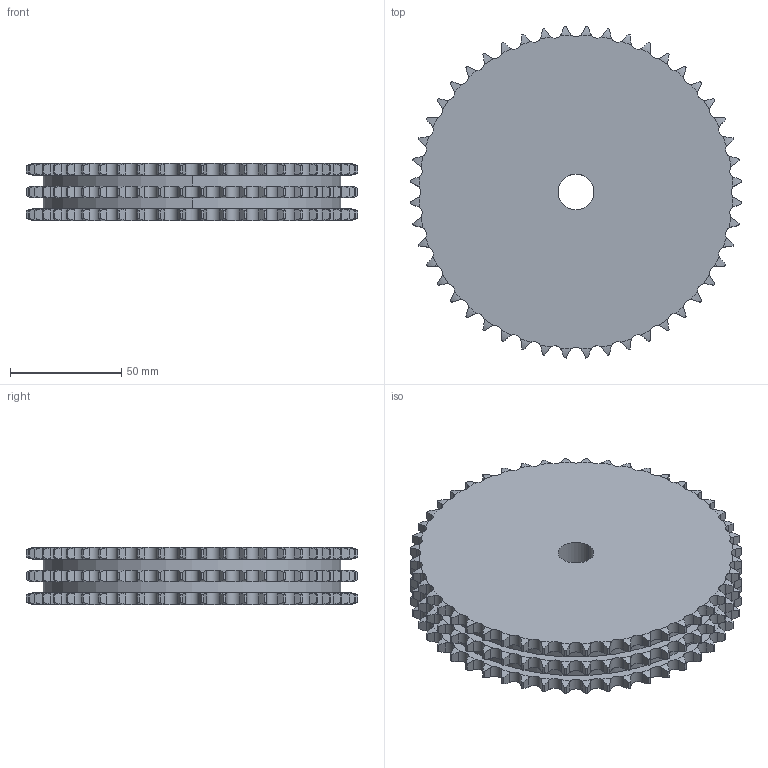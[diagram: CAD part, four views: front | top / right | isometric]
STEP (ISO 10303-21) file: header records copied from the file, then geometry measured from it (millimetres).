
FILE_DESCRIPTION((''),'2;1');
FILE_NAME('500-103-0048_PRT','2021-02-12T',('Brieden'),('Brieden'),'PRO/ENGINEER BY PARAMETRIC TECHNOLOGY CORPORATION, 2010160','PRO/ENGINEER BY PARAMETRIC TECHNOLOGY CORPORATION, 2010160','');
FILE_SCHEMA(('AUTOMOTIVE_DESIGN { 1 0 10303 214 1 1 1 1 }'));
Length unit declared in the file: millimetre
Products named in the file (1): 500-103-0048_PRT
Bounding box: 148.86 x 148.86 x 25.6 mm (x, y, z)
Volume: 384902.4 mm3; surface area: 55285.5 mm2
Topology: 1 solids, 1 shells, 876 faces, 2610 edges, 1740 vertices
Faces by surface type: cylinder 582, torus 288, plane 6
Entity records: 42683 total; most frequent: CARTESIAN_POINT 12662, ORIENTED_EDGE 5220, DIRECTION 4086, PRESENTATION_STYLE_ASSIGNMENT 2611, STYLED_ITEM 2611, CURVE_STYLE 2610, EDGE_CURVE 2610, AXIS2_PLACEMENT_3D 1752
